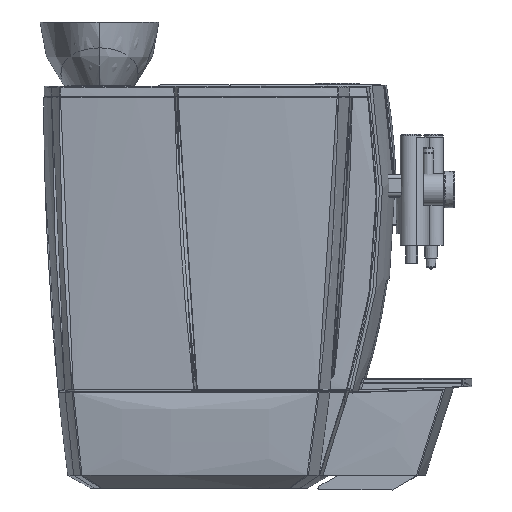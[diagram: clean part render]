
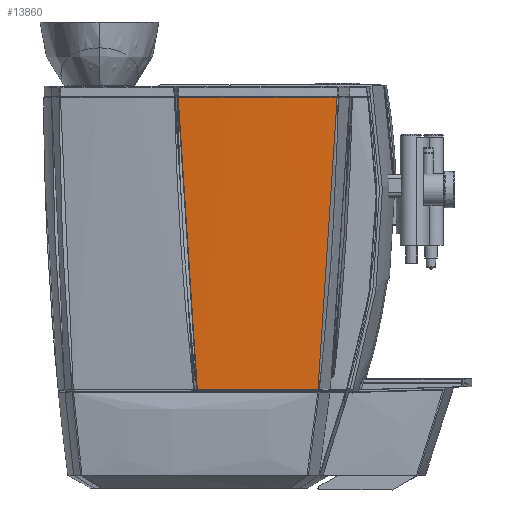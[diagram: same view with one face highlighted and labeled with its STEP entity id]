
A CAD part, left-side view. The second image highlights one B-rep face of the part: STEP entity #13860.
In plain terms, the highlighted toroidal (fillet/blend) face has major radius 2350 mm and minor radius 1450 mm.
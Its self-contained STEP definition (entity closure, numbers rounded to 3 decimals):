
#6617 = CIRCLE ( 'NONE', #10113, 1450. ) ;
#10113 = AXIS2_PLACEMENT_3D ( 'NONE', #78637, #78638, #78639 ) ;
#13336 = TOROIDAL_SURFACE ( 'NONE', #23090, 2350., 1450. ) ;
#13338 = FACE_OUTER_BOUND ( 'NONE', #33817, .T. ) ;
#13860 = ADVANCED_FACE ( 'NONE', ( #13338 ), #13336, .T. ) ;
#16997 = DIRECTION ( 'NONE',  ( 0., -1., 0. ) ) ;
#16999 = CARTESIAN_POINT ( 'NONE',  ( 3607.5, -51.948, 324. ) ) ;
#17001 = DIRECTION ( 'NONE',  ( 0., 0., -1. ) ) ;
#22568 = EDGE_CURVE ( 'NONE', #50200, #50189, #59034, .T. ) ;
#22569 = EDGE_CURVE ( 'NONE', #50189, #50192, #59035, .T. ) ;
#22570 = EDGE_CURVE ( 'NONE', #50192, #50193, #59036, .T. ) ;
#22571 = EDGE_CURVE ( 'NONE', #50193, #50200, #6617, .T. ) ;
#23090 = AXIS2_PLACEMENT_3D ( 'NONE', #16999, #16997, #17001 ) ;
#24736 = CARTESIAN_POINT ( 'NONE',  ( -180.145, -103.605, 29.461 ) ) ;
#24742 = CARTESIAN_POINT ( 'NONE',  ( -179.369, 18.123, 29.461 ) ) ;
#24744 = CARTESIAN_POINT ( 'NONE',  ( -189.745, 37.389, 324. ) ) ;
#24756 = CARTESIAN_POINT ( 'NONE',  ( -190.764, -122.886, 324. ) ) ;
#33817 = EDGE_LOOP ( 'NONE', ( #40951, #40953, #40957, #40959 ) ) ;
#40951 = ORIENTED_EDGE ( 'NONE', *, *, #22571, .F. ) ;
#40953 = ORIENTED_EDGE ( 'NONE', *, *, #22570, .F. ) ;
#40957 = ORIENTED_EDGE ( 'NONE', *, *, #22569, .F. ) ;
#40959 = ORIENTED_EDGE ( 'NONE', *, *, #22568, .F. ) ;
#50189 = VERTEX_POINT ( 'NONE', #24736 ) ;
#50192 = VERTEX_POINT ( 'NONE', #24742 ) ;
#50193 = VERTEX_POINT ( 'NONE', #24744 ) ;
#50200 = VERTEX_POINT ( 'NONE', #24756 ) ;
#59034 = B_SPLINE_CURVE_WITH_KNOTS ( 'NONE', 3,
 ( #78534, #78537, #78552, #78553, #78555, #78557, #78559, #78561, #78563, #78565, #78567, #78569, #78571, #78573, #78575, #78577, #78579, #78581 ),
 .UNSPECIFIED., .F., .F.,
 ( 4, 2, 2, 2, 2, 2, 2, 2, 4 ),
 ( 0.119, 2.014, 3.966, 5.187, 5.949, 6.712, 7.932, 9.885, 11.749 ),
 .UNSPECIFIED. ) ;
#59035 = B_SPLINE_CURVE_WITH_KNOTS ( 'NONE', 3,
 ( #78551, #78550, #78586, #78587, #78589, #78591, #78593, #78595, #78597, #78598 ),
 .UNSPECIFIED., .F., .F.,
 ( 4, 2, 2, 2, 4 ),
 ( -4.791, -4.177, -3.194, -1.622, 0. ),
 .UNSPECIFIED. ) ;
#59036 = B_SPLINE_CURVE_WITH_KNOTS ( 'NONE', 3,
 ( #78585, #78584, #78604, #78606, #78608, #78610, #78612, #78613, #78614, #78615, #78617, #78619, #78621, #78622, #78623, #78625, #78627, #78629 ),
 .UNSPECIFIED., .F., .F.,
 ( 4, 2, 2, 2, 2, 2, 2, 2, 4 ),
 ( -11.633, -9.679, -7.767, -6.572, -5.825, -5.079, -3.884, -1.972, 0. ),
 .UNSPECIFIED. ) ;
#78534 = CARTESIAN_POINT ( 'NONE',  ( -190.764, -122.886, 324. ) ) ;
#78537 = CARTESIAN_POINT ( 'NONE',  ( -190.775, -122.655, 307.958 ) ) ;
#78550 = CARTESIAN_POINT ( 'NONE',  ( -180.331, -98.406, 29.461 ) ) ;
#78551 = CARTESIAN_POINT ( 'NONE',  ( -180.145, -103.605, 29.461 ) ) ;
#78552 = CARTESIAN_POINT ( 'NONE',  ( -190.691, -122.292, 291.917 ) ) ;
#78553 = CARTESIAN_POINT ( 'NONE',  ( -190.327, -121.282, 259.348 ) ) ;
#78555 = CARTESIAN_POINT ( 'NONE',  ( -190.041, -120.628, 242.82 ) ) ;
#78557 = CARTESIAN_POINT ( 'NONE',  ( -189.411, -119.336, 215.978 ) ) ;
#78559 = CARTESIAN_POINT ( 'NONE',  ( -189.129, -118.784, 205.658 ) ) ;
#78561 = CARTESIAN_POINT ( 'NONE',  ( -188.606, -117.797, 188.896 ) ) ;
#78563 = CARTESIAN_POINT ( 'NONE',  ( -188.39, -117.396, 182.452 ) ) ;
#78565 = CARTESIAN_POINT ( 'NONE',  ( -187.925, -116.55, 169.567 ) ) ;
#78567 = CARTESIAN_POINT ( 'NONE',  ( -187.677, -116.106, 163.126 ) ) ;
#78569 = CARTESIAN_POINT ( 'NONE',  ( -186.993, -114.895, 146.385 ) ) ;
#78571 = CARTESIAN_POINT ( 'NONE',  ( -186.531, -114.095, 136.087 ) ) ;
#78573 = CARTESIAN_POINT ( 'NONE',  ( -185.227, -111.872, 109.33 ) ) ;
#78575 = CARTESIAN_POINT ( 'NONE',  ( -184.322, -110.362, 92.879 ) ) ;
#78577 = CARTESIAN_POINT ( 'NONE',  ( -182.352, -107.138, 60.766 ) ) ;
#78579 = CARTESIAN_POINT ( 'NONE',  ( -181.295, -105.435, 45.101 ) ) ;
#78581 = CARTESIAN_POINT ( 'NONE',  ( -180.145, -103.605, 29.461 ) ) ;
#78584 = CARTESIAN_POINT ( 'NONE',  ( -180.551, 20.038, 45.856 ) ) ;
#78585 = CARTESIAN_POINT ( 'NONE',  ( -179.369, 18.123, 29.461 ) ) ;
#78586 = CARTESIAN_POINT ( 'NONE',  ( -180.488, -93.206, 29.461 ) ) ;
#78587 = CARTESIAN_POINT ( 'NONE',  ( -180.826, -79.682, 29.461 ) ) ;
#78589 = CARTESIAN_POINT ( 'NONE',  ( -180.962, -71.357, 29.461 ) ) ;
#78591 = CARTESIAN_POINT ( 'NONE',  ( -181.128, -49.708, 29.461 ) ) ;
#78593 = CARTESIAN_POINT ( 'NONE',  ( -181.046, -36.382, 29.461 ) ) ;
#78595 = CARTESIAN_POINT ( 'NONE',  ( -180.505, -9.326, 29.461 ) ) ;
#78597 = CARTESIAN_POINT ( 'NONE',  ( -180.034, 4.405, 29.461 ) ) ;
#78598 = CARTESIAN_POINT ( 'NONE',  ( -179.369, 18.123, 29.461 ) ) ;
#78604 = CARTESIAN_POINT ( 'NONE',  ( -181.631, 21.814, 62.274 ) ) ;
#78606 = CARTESIAN_POINT ( 'NONE',  ( -183.567, 25.05, 94.799 ) ) ;
#78608 = CARTESIAN_POINT ( 'NONE',  ( -184.427, 26.517, 110.904 ) ) ;
#78610 = CARTESIAN_POINT ( 'NONE',  ( -185.668, 28.681, 137.099 ) ) ;
#78612 = CARTESIAN_POINT ( 'NONE',  ( -186.108, 29.461, 147.18 ) ) ;
#78613 = CARTESIAN_POINT ( 'NONE',  ( -186.761, 30.643, 163.569 ) ) ;
#78614 = CARTESIAN_POINT ( 'NONE',  ( -186.998, 31.077, 169.874 ) ) ;
#78615 = CARTESIAN_POINT ( 'NONE',  ( -187.441, 31.903, 182.488 ) ) ;
#78617 = CARTESIAN_POINT ( 'NONE',  ( -187.648, 32.296, 188.796 ) ) ;
#78619 = CARTESIAN_POINT ( 'NONE',  ( -188.149, 33.263, 205.204 ) ) ;
#78621 = CARTESIAN_POINT ( 'NONE',  ( -188.42, 33.805, 215.306 ) ) ;
#78622 = CARTESIAN_POINT ( 'NONE',  ( -189.026, 35.078, 241.578 ) ) ;
#78623 = CARTESIAN_POINT ( 'NONE',  ( -189.304, 35.725, 257.753 ) ) ;
#78625 = CARTESIAN_POINT ( 'NONE',  ( -189.674, 36.766, 290.619 ) ) ;
#78627 = CARTESIAN_POINT ( 'NONE',  ( -189.76, 37.149, 307.308 ) ) ;
#78629 = CARTESIAN_POINT ( 'NONE',  ( -189.745, 37.389, 324. ) ) ;
#78637 = CARTESIAN_POINT ( 'NONE',  ( 1257.5, -51.948, 324. ) ) ;
#78638 = DIRECTION ( 'NONE',  ( 0., 0., 1. ) ) ;
#78639 = DIRECTION ( 'NONE',  ( 1., 0., 0. ) ) ;
